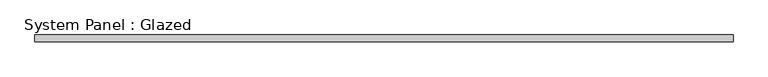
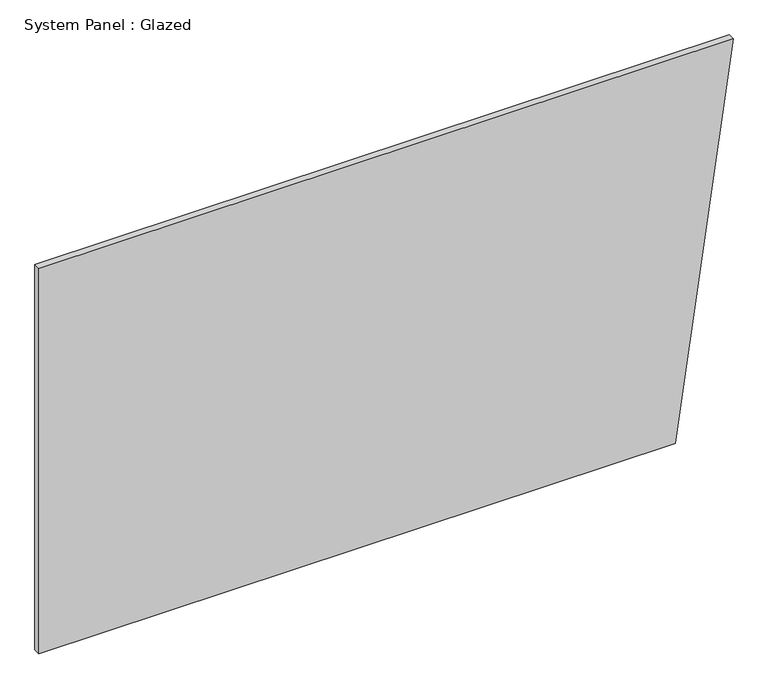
"""IFC4 building model written with IfcOpenShell, lengths in millimetres: plate geometry, System Panel : Glazed."""

from ifc_helpers import new_model, si_unit, frame, origin, place, context, project, spatial, polyline, outline, extrude, source, transform, mapped, element, save


def system_panel_glazed_0e86cbdc(model_context):
    return source(origin(), model_context, "Body", "SweptSolid", [
        extrude(outline(polyline([(0.0, -1297.5896162), (0.0, 1080.5442611), (1524.0, 1297.5896162), (1524.0, -1297.5896162), (0.0, -1297.5896162)])), frame((0.0, 19.05, 0.0), z_axis=(0.0, 1.0, 0.0), x_axis=(0.0, 0.0, 1.0)), (0.0, 0.0, 1.0), 25.4),
    ])


if __name__ == "__main__":
    model = new_model("IFC4")
    model_context = context("Model", 3, world=origin())
    ifc_project = project(units=[si_unit("LENGTHUNIT", "METRE", prefix="MILLI")], contexts=[model_context])
    site = spatial("IfcSite", under=ifc_project)
    building = spatial("IfcBuilding", under=site)
    placement = place(None, origin())
    system_panel_glazed_shape = system_panel_glazed_0e86cbdc(model_context)
    element("IfcPlate", 1, ObjectType="System Panel : Glazed", at=placement, inside=building, context=model_context, shape_type="MappedRepresentation", body=[
        mapped(system_panel_glazed_shape, transform((0.0, 0.0, 0.0), x_axis=(1.0, 0.0, 0.0), y_axis=(0.0, 1.0, 0.0), z_axis=(0.0, 0.0, 1.0))),
    ])
    save(model, "model.ifc")
